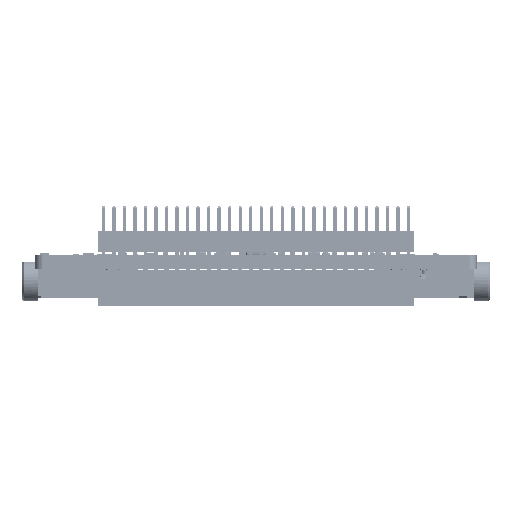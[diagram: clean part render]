
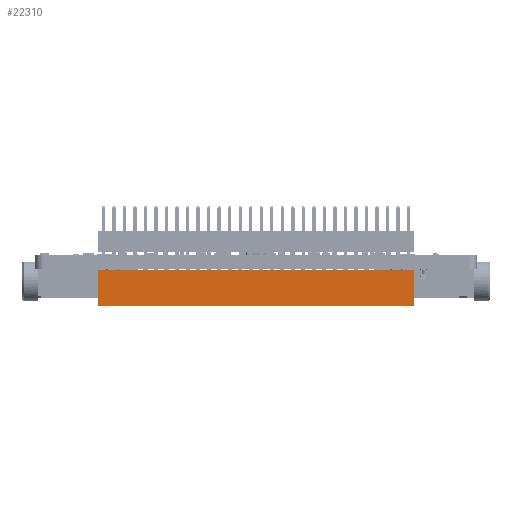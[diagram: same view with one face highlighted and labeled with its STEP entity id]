
A CAD part, left-side view. The second image highlights one B-rep face of the part: STEP entity #22310.
In plain terms, the highlighted planar face has unit normal (-1, 0, 0) as drawn and (0, 0, -1) by its records, which use the part's own axes.
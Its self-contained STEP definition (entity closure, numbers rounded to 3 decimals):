
#14713 = VERTEX_POINT('',#14714);
#14714 = CARTESIAN_POINT('',(-19.107,4.369,-1.664));
#14720 = EDGE_CURVE('',#14713,#14721,#14723,.T.);
#14721 = VERTEX_POINT('',#14722);
#14722 = CARTESIAN_POINT('',(-19.107,0.,-1.664));
#14723 = LINE('',#14724,#14725);
#14724 = CARTESIAN_POINT('',(-19.107,4.369,-1.664));
#14725 = VECTOR('',#14726,1.);
#14726 = DIRECTION('',(0.,-1.,0.));
#22225 = VERTEX_POINT('',#22226);
#22226 = CARTESIAN_POINT('',(19.107,0.,-1.664));
#22232 = EDGE_CURVE('',#22233,#22225,#22235,.T.);
#22233 = VERTEX_POINT('',#22234);
#22234 = CARTESIAN_POINT('',(19.107,4.369,-1.664));
#22235 = LINE('',#22236,#22237);
#22236 = CARTESIAN_POINT('',(19.107,4.369,-1.664));
#22237 = VECTOR('',#22238,1.);
#22238 = DIRECTION('',(0.,-1.,0.));
#22299 = EDGE_CURVE('',#22225,#14721,#22300,.T.);
#22300 = LINE('',#22301,#22302);
#22301 = CARTESIAN_POINT('',(19.107,0.,-1.664));
#22302 = VECTOR('',#22303,1.);
#22303 = DIRECTION('',(-1.,0.,0.));
#22310 = ADVANCED_FACE('',(#22311),#22322,.F.);
#22311 = FACE_BOUND('',#22312,.T.);
#22312 = EDGE_LOOP('',(#22313,#22314,#22315,#22321));
#22313 = ORIENTED_EDGE('',*,*,#22299,.T.);
#22314 = ORIENTED_EDGE('',*,*,#14720,.F.);
#22315 = ORIENTED_EDGE('',*,*,#22316,.F.);
#22316 = EDGE_CURVE('',#22233,#14713,#22317,.T.);
#22317 = LINE('',#22318,#22319);
#22318 = CARTESIAN_POINT('',(19.107,4.369,-1.664));
#22319 = VECTOR('',#22320,1.);
#22320 = DIRECTION('',(-1.,0.,0.));
#22321 = ORIENTED_EDGE('',*,*,#22232,.T.);
#22322 = PLANE('',#22323);
#22323 = AXIS2_PLACEMENT_3D('',#22324,#22325,#22326);
#22324 = CARTESIAN_POINT('',(19.107,4.369,-1.664));
#22325 = DIRECTION('',(0.,0.,1.));
#22326 = DIRECTION('',(1.,0.,-0.));
